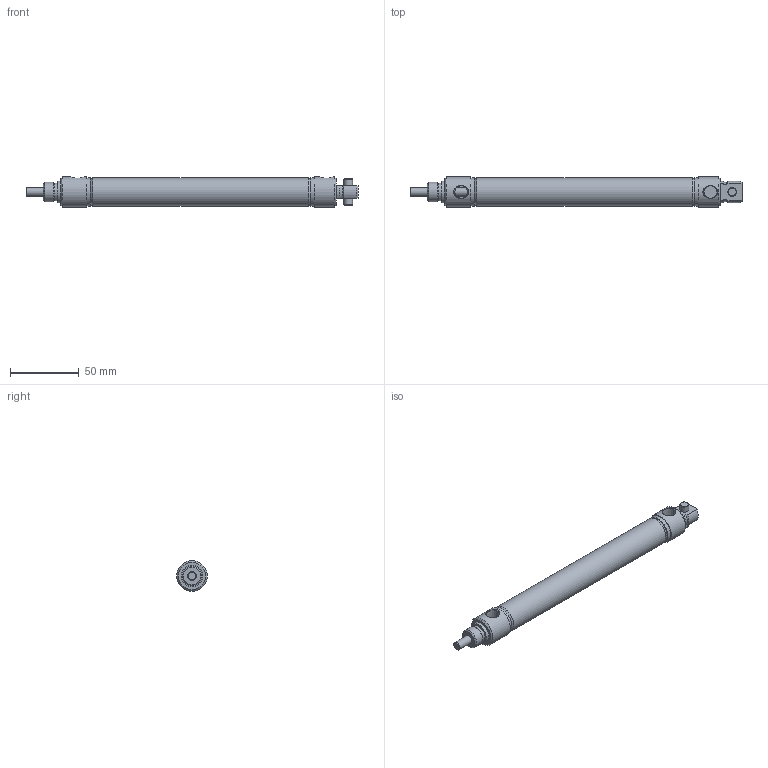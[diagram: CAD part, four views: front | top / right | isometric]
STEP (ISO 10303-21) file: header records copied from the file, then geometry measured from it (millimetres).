
FILE_DESCRIPTION( ( 'STEP AP214' ), '1' );
FILE_NAME( 'p:/temp/worker_410/temp/exporttempdir_4652_111_QoHH6/format_0/0750D02-05A.stp', '2020-05-07T14:39:21', ( 'License CC BY-ND 4.0' ), ( 'CADENAS' ), ' ', 'PARTsolutions', ' ' );
FILE_SCHEMA( ( 'AUTOMOTIVE_DESIGN { 1 0 10303 214 1 1 1 1 }' ) );
Length unit declared in the file: inch
Products named in the file (3): 0750D02-05A; _0750D02-05A-0000A00A0b; _0750D02-05A-0000A00A0r
Assembly tree (2 placements, depth 2):
  0750D02-05A
    _0750D02-05A-0000A00A0b
    _0750D02-05A-0000A00A0r
Bounding box: 242.09 x 22.23 x 22.23 mm (x, y, z)
Volume: 39350.3 mm3; surface area: 32497 mm2
Topology: 2 solids, 2 shells, 64 faces, 128 edges, 82 vertices
Faces by surface type: plane 24, cylinder 21, cone 19
Full cylindrical faces by diameter (mm): 6.35 x5, 12.609 x1, 14.287 x1, 15.85 x1, 19.05 x2, 20.472 x1, 20.65 x2, 22.225 x2
Entity records: 2302 total; most frequent: CARTESIAN_POINT 499, DIRECTION 274, ORIENTED_EDGE 198, AXIS2_PLACEMENT_3D 126, EDGE_LOOP 106, EDGE_CURVE 99, FACE_OUTER_BOUND 79, VERTEX_POINT 79
